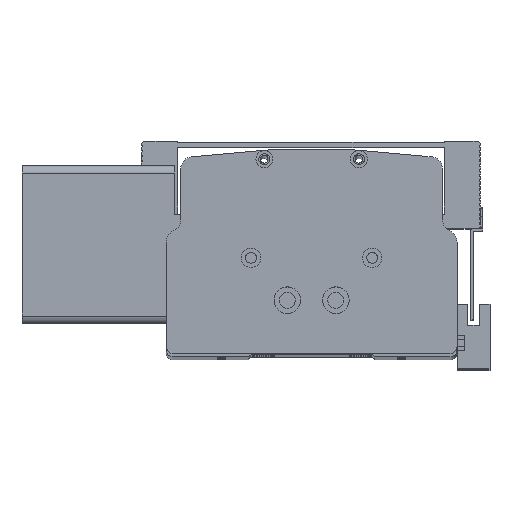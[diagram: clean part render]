
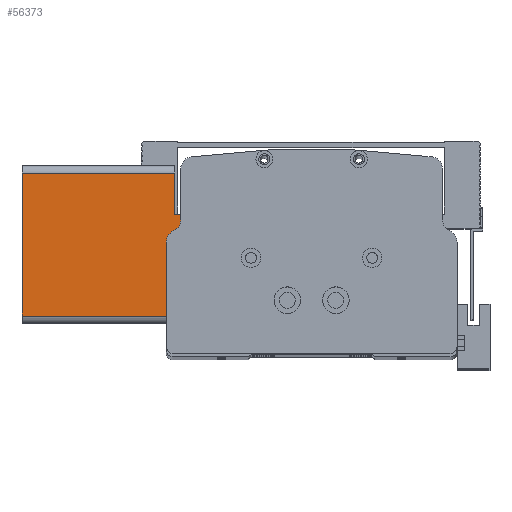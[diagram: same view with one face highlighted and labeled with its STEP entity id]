
A CAD part, top view. The second image highlights one B-rep face of the part: STEP entity #56373.
In plain terms, the highlighted planar face has unit normal (0, 0, 1) as drawn and (-1, 0, 0) by its records, which use the part's own axes.
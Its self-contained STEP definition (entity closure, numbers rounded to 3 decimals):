
#255 = VERTEX_POINT ( 'NONE', #94604 ) ;
#2276 = LINE ( 'NONE', #83295, #112263 ) ;
#3711 = DIRECTION ( 'NONE',  ( 0., 1., 0. ) ) ;
#6354 = VERTEX_POINT ( 'NONE', #19282 ) ;
#6790 = CARTESIAN_POINT ( 'NONE',  ( 0., 0., 0. ) ) ;
#7413 = VECTOR ( 'NONE', #124530, 1000. ) ;
#7934 = VERTEX_POINT ( 'NONE', #28327 ) ;
#10365 = EDGE_CURVE ( 'NONE', #22014, #6354, #38036, .T. ) ;
#11099 = VECTOR ( 'NONE', #80855, 1000. ) ;
#11335 = VERTEX_POINT ( 'NONE', #97579 ) ;
#14438 = CARTESIAN_POINT ( 'NONE',  ( 0., 80.26, 73. ) ) ;
#17507 = DIRECTION ( 'NONE',  ( 0., -1., 0. ) ) ;
#19282 = CARTESIAN_POINT ( 'NONE',  ( 0., 62., 73. ) ) ;
#19477 = ORIENTED_EDGE ( 'NONE', *, *, #10365, .F. ) ;
#22014 = VERTEX_POINT ( 'NONE', #58203 ) ;
#24781 = VERTEX_POINT ( 'NONE', #55973 ) ;
#26485 = ORIENTED_EDGE ( 'NONE', *, *, #80245, .F. ) ;
#28327 = CARTESIAN_POINT ( 'NONE',  ( 0., 62., 63. ) ) ;
#28582 = CARTESIAN_POINT ( 'NONE',  ( 0., 62., 87. ) ) ;
#29986 = DIRECTION ( 'NONE',  ( 0., 0., -1. ) ) ;
#35368 = DIRECTION ( 'NONE',  ( 0., 0., 1. ) ) ;
#35798 = LINE ( 'NONE', #28582, #7413 ) ;
#35820 = ORIENTED_EDGE ( 'NONE', *, *, #45118, .F. ) ;
#38036 = LINE ( 'NONE', #14438, #119580 ) ;
#38255 = CARTESIAN_POINT ( 'NONE',  ( 0., 45., 63. ) ) ;
#39492 = LINE ( 'NONE', #133861, #11099 ) ;
#43670 = EDGE_CURVE ( 'NONE', #65136, #6354, #88427, .T. ) ;
#45118 = EDGE_CURVE ( 'NONE', #7934, #112679, #39492, .T. ) ;
#50880 = LINE ( 'NONE', #116183, #75845 ) ;
#53279 = EDGE_LOOP ( 'NONE', ( #26485, #35820, #97475, #137770, #73778, #129006, #119405, #19477 ) ) ;
#54765 = VECTOR ( 'NONE', #35368, 1000. ) ;
#55501 = CARTESIAN_POINT ( 'NONE',  ( 0., 62., 87. ) ) ;
#55973 = CARTESIAN_POINT ( 'NONE',  ( 0., 3., 0. ) ) ;
#56373 = ADVANCED_FACE ( 'NONE', ( #115697 ), #125439, .F. ) ;
#56383 = CARTESIAN_POINT ( 'NONE',  ( 0., 45., 63. ) ) ;
#57126 = AXIS2_PLACEMENT_3D ( 'NONE', #72398, #93845, #29986 ) ;
#58203 = CARTESIAN_POINT ( 'NONE',  ( 0., 45., 73. ) ) ;
#60126 = VECTOR ( 'NONE', #115194, 1000. ) ;
#60821 = LINE ( 'NONE', #6790, #114032 ) ;
#65136 = VERTEX_POINT ( 'NONE', #55501 ) ;
#72398 = CARTESIAN_POINT ( 'NONE',  ( 0., 0., 87. ) ) ;
#73026 = DIRECTION ( 'NONE',  ( 0., 0., 1. ) ) ;
#73778 = ORIENTED_EDGE ( 'NONE', *, *, #120563, .T. ) ;
#75845 = VECTOR ( 'NONE', #84604, 1000. ) ;
#80245 = EDGE_CURVE ( 'NONE', #112679, #22014, #117957, .T. ) ;
#80855 = DIRECTION ( 'NONE',  ( 0., -1., 0. ) ) ;
#83295 = CARTESIAN_POINT ( 'NONE',  ( 0., 3., 87. ) ) ;
#84604 = DIRECTION ( 'NONE',  ( 0., -1., 0. ) ) ;
#88427 = LINE ( 'NONE', #93423, #60126 ) ;
#93423 = CARTESIAN_POINT ( 'NONE',  ( 0., 62., 87. ) ) ;
#93845 = DIRECTION ( 'NONE',  ( 1., 0., 0. ) ) ;
#94604 = CARTESIAN_POINT ( 'NONE',  ( 0., 62., 0. ) ) ;
#97475 = ORIENTED_EDGE ( 'NONE', *, *, #108153, .T. ) ;
#97579 = CARTESIAN_POINT ( 'NONE',  ( 0., 3., 87. ) ) ;
#103476 = EDGE_CURVE ( 'NONE', #255, #24781, #60821, .T. ) ;
#108153 = EDGE_CURVE ( 'NONE', #7934, #255, #35798, .T. ) ;
#112263 = VECTOR ( 'NONE', #73026, 1000. ) ;
#112679 = VERTEX_POINT ( 'NONE', #38255 ) ;
#114032 = VECTOR ( 'NONE', #17507, 1000. ) ;
#115194 = DIRECTION ( 'NONE',  ( 0., 0., -1. ) ) ;
#115697 = FACE_OUTER_BOUND ( 'NONE', #53279, .T. ) ;
#116183 = CARTESIAN_POINT ( 'NONE',  ( 0., 0., 87. ) ) ;
#117416 = EDGE_CURVE ( 'NONE', #65136, #11335, #50880, .T. ) ;
#117957 = LINE ( 'NONE', #56383, #54765 ) ;
#119405 = ORIENTED_EDGE ( 'NONE', *, *, #43670, .T. ) ;
#119580 = VECTOR ( 'NONE', #3711, 1000. ) ;
#120563 = EDGE_CURVE ( 'NONE', #24781, #11335, #2276, .T. ) ;
#124530 = DIRECTION ( 'NONE',  ( 0., 0., -1. ) ) ;
#125439 = PLANE ( 'NONE',  #57126 ) ;
#129006 = ORIENTED_EDGE ( 'NONE', *, *, #117416, .F. ) ;
#133861 = CARTESIAN_POINT ( 'NONE',  ( 0., 80.26, 63. ) ) ;
#137770 = ORIENTED_EDGE ( 'NONE', *, *, #103476, .T. ) ;
